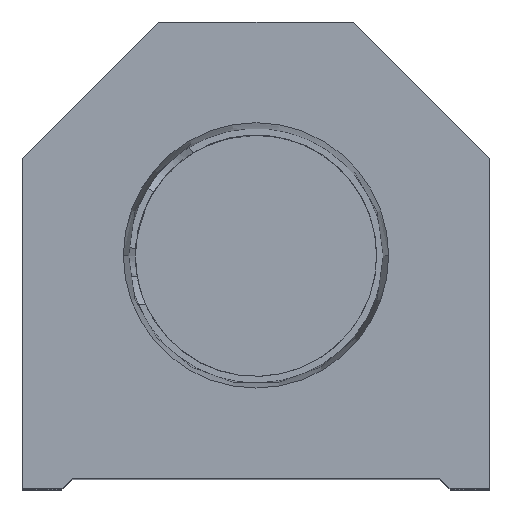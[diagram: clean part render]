
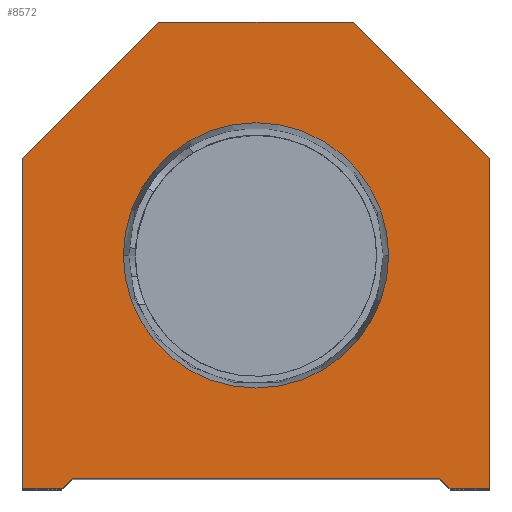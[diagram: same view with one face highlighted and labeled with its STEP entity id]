
A CAD part, top view. The second image highlights one B-rep face of the part: STEP entity #8572.
In plain terms, the highlighted planar face has unit normal (0, 0, 1).
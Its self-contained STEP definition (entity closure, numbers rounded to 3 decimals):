
#52 = CIRCLE ( 'NONE', #12485, 12.647 ) ;
#318 = CARTESIAN_POINT ( 'NONE',  ( 0., 22.25, 0. ) ) ;
#391 = CARTESIAN_POINT ( 'NONE',  ( 22.25, 0., 0. ) ) ;
#439 = LINE ( 'NONE', #8329, #3649 ) ;
#493 = DIRECTION ( 'NONE',  ( 0., 0., 1. ) ) ;
#667 = CARTESIAN_POINT ( 'NONE',  ( 17.5, 0., 0. ) ) ;
#686 = DIRECTION ( 'NONE',  ( 0., 0., 1. ) ) ;
#915 = CARTESIAN_POINT ( 'NONE',  ( 9.25, 44.5, 0. ) ) ;
#923 = CARTESIAN_POINT ( 'NONE',  ( 9.25, 44.5, 0. ) ) ;
#1104 = PLANE ( 'NONE',  #11493 ) ;
#1221 = CARTESIAN_POINT ( 'NONE',  ( 18.5, 0., 0. ) ) ;
#1736 = DIRECTION ( 'NONE',  ( 1., 0., 0. ) ) ;
#2378 = VECTOR ( 'NONE', #5176, 1000. ) ;
#2395 = DIRECTION ( 'NONE',  ( 1., 0., 0. ) ) ;
#2399 = EDGE_CURVE ( 'NONE', #7567, #9669, #439, .T. ) ;
#2463 = DIRECTION ( 'NONE',  ( -1., 0., 0. ) ) ;
#2479 = CARTESIAN_POINT ( 'NONE',  ( 0., 0., 0. ) ) ;
#2756 = EDGE_CURVE ( 'NONE', #3503, #6104, #52, .T. ) ;
#2890 = VERTEX_POINT ( 'NONE', #12794 ) ;
#3055 = EDGE_CURVE ( 'NONE', #16567, #2890, #16424, .T. ) ;
#3193 = EDGE_CURVE ( 'NONE', #13874, #11566, #14669, .T. ) ;
#3503 = VERTEX_POINT ( 'NONE', #9108 ) ;
#3649 = VECTOR ( 'NONE', #11057, 1000. ) ;
#3733 = FACE_OUTER_BOUND ( 'NONE', #10928, .T. ) ;
#4529 = DIRECTION ( 'NONE',  ( 1., 0., 0. ) ) ;
#4743 = CARTESIAN_POINT ( 'NONE',  ( 22.25, 0., 0. ) ) ;
#4756 = LINE ( 'NONE', #7318, #6751 ) ;
#4760 = ORIENTED_EDGE ( 'NONE', *, *, #14762, .T. ) ;
#4937 = ORIENTED_EDGE ( 'NONE', *, *, #2756, .F. ) ;
#5092 = VECTOR ( 'NONE', #4529, 1000. ) ;
#5176 = DIRECTION ( 'NONE',  ( 0.707, 0.707, 0. ) ) ;
#5665 = DIRECTION ( 'NONE',  ( 1., 0., 0. ) ) ;
#6091 = LINE ( 'NONE', #8692, #17824 ) ;
#6104 = VERTEX_POINT ( 'NONE', #14047 ) ;
#6185 = VECTOR ( 'NONE', #8443, 1000. ) ;
#6526 = EDGE_LOOP ( 'NONE', ( #14560, #4937 ) ) ;
#6661 = DIRECTION ( 'NONE',  ( -0.707, -0.707, 0. ) ) ;
#6685 = VECTOR ( 'NONE', #10090, 1000. ) ;
#6751 = VECTOR ( 'NONE', #10031, 1000. ) ;
#6826 = EDGE_CURVE ( 'NONE', #13565, #16567, #11343, .T. ) ;
#7318 = CARTESIAN_POINT ( 'NONE',  ( -22.25, 0., 0. ) ) ;
#7567 = VERTEX_POINT ( 'NONE', #16095 ) ;
#7653 = EDGE_CURVE ( 'NONE', #11858, #10744, #9546, .T. ) ;
#8000 = CARTESIAN_POINT ( 'NONE',  ( -22.25, 31.5, 0. ) ) ;
#8173 = DIRECTION ( 'NONE',  ( 0., 0., 1. ) ) ;
#8195 = VERTEX_POINT ( 'NONE', #4743 ) ;
#8243 = CARTESIAN_POINT ( 'NONE',  ( -18.5, 0., 0. ) ) ;
#8313 = EDGE_CURVE ( 'NONE', #6104, #3503, #14355, .T. ) ;
#8329 = CARTESIAN_POINT ( 'NONE',  ( 9.25, 9.25, 0. ) ) ;
#8443 = DIRECTION ( 'NONE',  ( 0., 1., 0. ) ) ;
#8572 = ADVANCED_FACE ( 'NONE', ( #14894, #3733 ), #1104, .T. ) ;
#8692 = CARTESIAN_POINT ( 'NONE',  ( -17.5, 1., 0. ) ) ;
#8920 = ORIENTED_EDGE ( 'NONE', *, *, #16433, .T. ) ;
#9065 = LINE ( 'NONE', #915, #13484 ) ;
#9108 = CARTESIAN_POINT ( 'NONE',  ( -12.647, 22.25, 0. ) ) ;
#9448 = AXIS2_PLACEMENT_3D ( 'NONE', #318, #493, #5665 ) ;
#9546 = LINE ( 'NONE', #17912, #16429 ) ;
#9669 = VERTEX_POINT ( 'NONE', #1221 ) ;
#9755 = EDGE_CURVE ( 'NONE', #2890, #7567, #6091, .T. ) ;
#9905 = EDGE_CURVE ( 'NONE', #11566, #11858, #9065, .T. ) ;
#10031 = DIRECTION ( 'NONE',  ( 0., -1., 0. ) ) ;
#10090 = DIRECTION ( 'NONE',  ( 1., 0., 0. ) ) ;
#10744 = VERTEX_POINT ( 'NONE', #8000 ) ;
#10928 = EDGE_LOOP ( 'NONE', ( #11624, #16501, #11226, #15627, #4760, #8920, #13566, #13064, #17153, #17461 ) ) ;
#11057 = DIRECTION ( 'NONE',  ( 0.707, -0.707, 0. ) ) ;
#11059 = CARTESIAN_POINT ( 'NONE',  ( -9.25, 9.25, 0. ) ) ;
#11226 = ORIENTED_EDGE ( 'NONE', *, *, #9755, .T. ) ;
#11343 = LINE ( 'NONE', #14148, #5092 ) ;
#11370 = CARTESIAN_POINT ( 'NONE',  ( 22.25, 31.5, 0. ) ) ;
#11493 = AXIS2_PLACEMENT_3D ( 'NONE', #2479, #8173, #2395 ) ;
#11566 = VERTEX_POINT ( 'NONE', #923 ) ;
#11624 = ORIENTED_EDGE ( 'NONE', *, *, #6826, .T. ) ;
#11677 = CARTESIAN_POINT ( 'NONE',  ( 22.25, 31.5, 0. ) ) ;
#11726 = CARTESIAN_POINT ( 'NONE',  ( -9.25, 44.5, 0. ) ) ;
#11858 = VERTEX_POINT ( 'NONE', #11726 ) ;
#11953 = DIRECTION ( 'NONE',  ( -0.707, 0.707, 0. ) ) ;
#12485 = AXIS2_PLACEMENT_3D ( 'NONE', #14364, #686, #13006 ) ;
#12794 = CARTESIAN_POINT ( 'NONE',  ( -17.5, 1., 0. ) ) ;
#13006 = DIRECTION ( 'NONE',  ( 1., 0., 0. ) ) ;
#13064 = ORIENTED_EDGE ( 'NONE', *, *, #9905, .T. ) ;
#13484 = VECTOR ( 'NONE', #2463, 1000. ) ;
#13565 = VERTEX_POINT ( 'NONE', #17010 ) ;
#13566 = ORIENTED_EDGE ( 'NONE', *, *, #3193, .T. ) ;
#13874 = VERTEX_POINT ( 'NONE', #11370 ) ;
#14047 = CARTESIAN_POINT ( 'NONE',  ( 12.647, 22.25, 0. ) ) ;
#14148 = CARTESIAN_POINT ( 'NONE',  ( -17.5, 0., 0. ) ) ;
#14337 = LINE ( 'NONE', #667, #6685 ) ;
#14355 = CIRCLE ( 'NONE', #9448, 12.647 ) ;
#14364 = CARTESIAN_POINT ( 'NONE',  ( 0., 22.25, 0. ) ) ;
#14560 = ORIENTED_EDGE ( 'NONE', *, *, #8313, .F. ) ;
#14669 = LINE ( 'NONE', #11677, #15935 ) ;
#14762 = EDGE_CURVE ( 'NONE', #9669, #8195, #14337, .T. ) ;
#14894 = FACE_BOUND ( 'NONE', #6526, .T. ) ;
#15361 = LINE ( 'NONE', #391, #6185 ) ;
#15627 = ORIENTED_EDGE ( 'NONE', *, *, #2399, .T. ) ;
#15935 = VECTOR ( 'NONE', #11953, 1000. ) ;
#16095 = CARTESIAN_POINT ( 'NONE',  ( 17.5, 1., 0. ) ) ;
#16121 = EDGE_CURVE ( 'NONE', #10744, #13565, #4756, .T. ) ;
#16424 = LINE ( 'NONE', #11059, #2378 ) ;
#16429 = VECTOR ( 'NONE', #6661, 1000. ) ;
#16433 = EDGE_CURVE ( 'NONE', #8195, #13874, #15361, .T. ) ;
#16501 = ORIENTED_EDGE ( 'NONE', *, *, #3055, .T. ) ;
#16567 = VERTEX_POINT ( 'NONE', #8243 ) ;
#17010 = CARTESIAN_POINT ( 'NONE',  ( -22.25, 0., 0. ) ) ;
#17153 = ORIENTED_EDGE ( 'NONE', *, *, #7653, .T. ) ;
#17461 = ORIENTED_EDGE ( 'NONE', *, *, #16121, .T. ) ;
#17824 = VECTOR ( 'NONE', #1736, 1000. ) ;
#17912 = CARTESIAN_POINT ( 'NONE',  ( -22.25, 31.5, 0. ) ) ;
